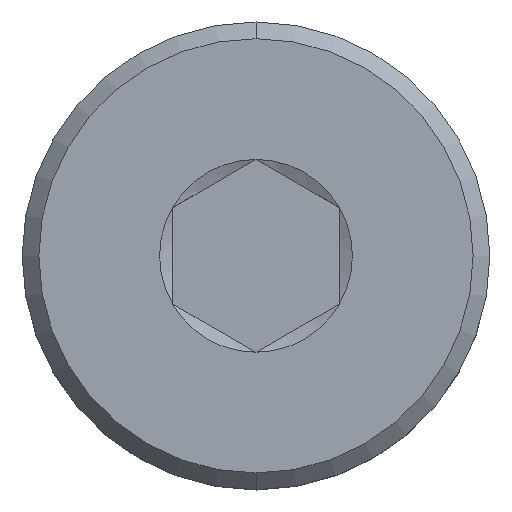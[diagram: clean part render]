
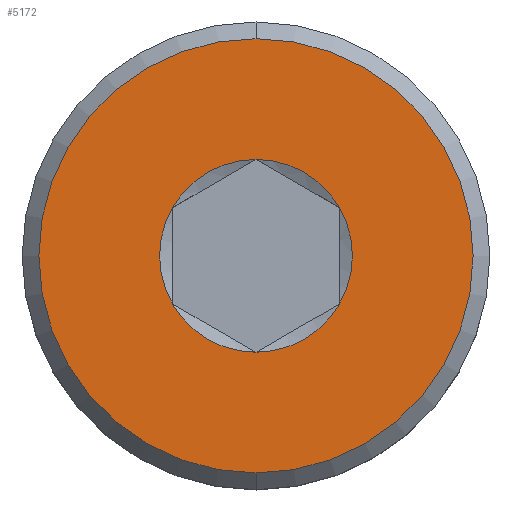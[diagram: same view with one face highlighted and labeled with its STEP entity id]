
A CAD part, top view. The second image highlights one B-rep face of the part: STEP entity #5172.
In plain terms, the highlighted planar face has unit normal (0, 0, 1).
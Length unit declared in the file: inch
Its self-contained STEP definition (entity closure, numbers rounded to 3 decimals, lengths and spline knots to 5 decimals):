
#137 = CARTESIAN_POINT ( 'NONE',  ( -0.04921, -0.02841, 0. ) ) ;
#432 = AXIS2_PLACEMENT_3D ( 'NONE', #665, #5407, #2309 ) ;
#533 = EDGE_CURVE ( 'NONE', #8525, #5324, #4508, .T. ) ;
#557 = ORIENTED_EDGE ( 'NONE', *, *, #7467, .F. ) ;
#665 = CARTESIAN_POINT ( 'NONE',  ( 0., 0., 0. ) ) ;
#680 = DIRECTION ( 'NONE',  ( 0., 1., 0. ) ) ;
#703 = VERTEX_POINT ( 'NONE', #3944 ) ;
#935 = ORIENTED_EDGE ( 'NONE', *, *, #533, .F. ) ;
#1260 = AXIS2_PLACEMENT_3D ( 'NONE', #4479, #3832, #6871 ) ;
#1383 = VERTEX_POINT ( 'NONE', #6677 ) ;
#1418 = CARTESIAN_POINT ( 'NONE',  ( 0., 0., 0. ) ) ;
#1424 = DIRECTION ( 'NONE',  ( 0., 0., 1. ) ) ;
#1429 = CIRCLE ( 'NONE', #7269, 0.12795 ) ;
#1542 = VERTEX_POINT ( 'NONE', #7628 ) ;
#1614 = DIRECTION ( 'NONE',  ( 0., -1., 0. ) ) ;
#1670 = AXIS2_PLACEMENT_3D ( 'NONE', #5673, #2540, #1823 ) ;
#1798 = CARTESIAN_POINT ( 'NONE',  ( 0., 0., 0. ) ) ;
#1823 = DIRECTION ( 'NONE',  ( 0., -1., 0. ) ) ;
#1892 = CIRCLE ( 'NONE', #8932, 0.05683 ) ;
#2023 = CIRCLE ( 'NONE', #6948, 0.05683 ) ;
#2186 = DIRECTION ( 'NONE',  ( 0., -1., 0. ) ) ;
#2309 = DIRECTION ( 'NONE',  ( 0., -1., 0. ) ) ;
#2441 = ORIENTED_EDGE ( 'NONE', *, *, #6379, .F. ) ;
#2540 = DIRECTION ( 'NONE',  ( 0., 0., 1. ) ) ;
#2588 = DIRECTION ( 'NONE',  ( 0., -1., 0. ) ) ;
#3116 = EDGE_CURVE ( 'NONE', #1542, #3356, #7299, .T. ) ;
#3356 = VERTEX_POINT ( 'NONE', #137 ) ;
#3409 = AXIS2_PLACEMENT_3D ( 'NONE', #6120, #4628, #6830 ) ;
#3677 = EDGE_CURVE ( 'NONE', #8218, #703, #7973, .T. ) ;
#3733 = CARTESIAN_POINT ( 'NONE',  ( 0., 0., 0. ) ) ;
#3789 = EDGE_CURVE ( 'NONE', #3356, #9363, #1892, .T. ) ;
#3832 = DIRECTION ( 'NONE',  ( 0., 0., 1. ) ) ;
#3944 = CARTESIAN_POINT ( 'NONE',  ( 0., 0.12795, 0. ) ) ;
#4129 = ORIENTED_EDGE ( 'NONE', *, *, #3789, .F. ) ;
#4241 = AXIS2_PLACEMENT_3D ( 'NONE', #1798, #9543, #2588 ) ;
#4278 = CARTESIAN_POINT ( 'NONE',  ( 0., -0.12795, 0. ) ) ;
#4479 = CARTESIAN_POINT ( 'NONE',  ( 0., 0.12795, 0. ) ) ;
#4508 = CIRCLE ( 'NONE', #6473, 0.05683 ) ;
#4600 = CARTESIAN_POINT ( 'NONE',  ( 0., 0., 0. ) ) ;
#4628 = DIRECTION ( 'NONE',  ( 0., 0., -1. ) ) ;
#5006 = CARTESIAN_POINT ( 'NONE',  ( 0., -0.05683, 0. ) ) ;
#5104 = EDGE_LOOP ( 'NONE', ( #2441, #4129, #6338, #557, #935, #9023 ) ) ;
#5172 = ADVANCED_FACE ( 'NONE', ( #6983, #9319 ), #5366, .T. ) ;
#5324 = VERTEX_POINT ( 'NONE', #8544 ) ;
#5366 = PLANE ( 'NONE',  #1260 ) ;
#5407 = DIRECTION ( 'NONE',  ( 0., 0., 1. ) ) ;
#5445 = ORIENTED_EDGE ( 'NONE', *, *, #3677, .F. ) ;
#5465 = CIRCLE ( 'NONE', #432, 0.05683 ) ;
#5673 = CARTESIAN_POINT ( 'NONE',  ( 0., 0., 0. ) ) ;
#6120 = CARTESIAN_POINT ( 'NONE',  ( 0., 0., 0. ) ) ;
#6212 = CARTESIAN_POINT ( 'NONE',  ( 0.04921, 0.02841, 0. ) ) ;
#6286 = CARTESIAN_POINT ( 'NONE',  ( 0., 0., 0. ) ) ;
#6338 = ORIENTED_EDGE ( 'NONE', *, *, #3116, .F. ) ;
#6379 = EDGE_CURVE ( 'NONE', #9363, #1383, #2023, .T. ) ;
#6473 = AXIS2_PLACEMENT_3D ( 'NONE', #4600, #1424, #2186 ) ;
#6677 = CARTESIAN_POINT ( 'NONE',  ( 0.04921, -0.02841, 0. ) ) ;
#6760 = EDGE_LOOP ( 'NONE', ( #8271, #5445 ) ) ;
#6830 = DIRECTION ( 'NONE',  ( 0., 1., 0. ) ) ;
#6854 = DIRECTION ( 'NONE',  ( 0., 0., 1. ) ) ;
#6871 = DIRECTION ( 'NONE',  ( 0., -1., 0. ) ) ;
#6948 = AXIS2_PLACEMENT_3D ( 'NONE', #6286, #8631, #1614 ) ;
#6983 = FACE_BOUND ( 'NONE', #5104, .T. ) ;
#7086 = EDGE_CURVE ( 'NONE', #703, #8218, #1429, .T. ) ;
#7269 = AXIS2_PLACEMENT_3D ( 'NONE', #3733, #9921, #680 ) ;
#7299 = CIRCLE ( 'NONE', #4241, 0.05683 ) ;
#7467 = EDGE_CURVE ( 'NONE', #5324, #1542, #5465, .T. ) ;
#7628 = CARTESIAN_POINT ( 'NONE',  ( -0.04921, 0.02841, 0. ) ) ;
#7639 = CIRCLE ( 'NONE', #1670, 0.05683 ) ;
#7646 = DIRECTION ( 'NONE',  ( 0., -1., 0. ) ) ;
#7711 = EDGE_CURVE ( 'NONE', #1383, #8525, #7639, .T. ) ;
#7973 = CIRCLE ( 'NONE', #3409, 0.12795 ) ;
#8218 = VERTEX_POINT ( 'NONE', #4278 ) ;
#8271 = ORIENTED_EDGE ( 'NONE', *, *, #7086, .F. ) ;
#8525 = VERTEX_POINT ( 'NONE', #6212 ) ;
#8544 = CARTESIAN_POINT ( 'NONE',  ( 0., 0.05683, 0. ) ) ;
#8631 = DIRECTION ( 'NONE',  ( 0., 0., 1. ) ) ;
#8932 = AXIS2_PLACEMENT_3D ( 'NONE', #1418, #6854, #7646 ) ;
#9023 = ORIENTED_EDGE ( 'NONE', *, *, #7711, .F. ) ;
#9319 = FACE_OUTER_BOUND ( 'NONE', #6760, .T. ) ;
#9363 = VERTEX_POINT ( 'NONE', #5006 ) ;
#9543 = DIRECTION ( 'NONE',  ( 0., 0., 1. ) ) ;
#9921 = DIRECTION ( 'NONE',  ( 0., 0., -1. ) ) ;
